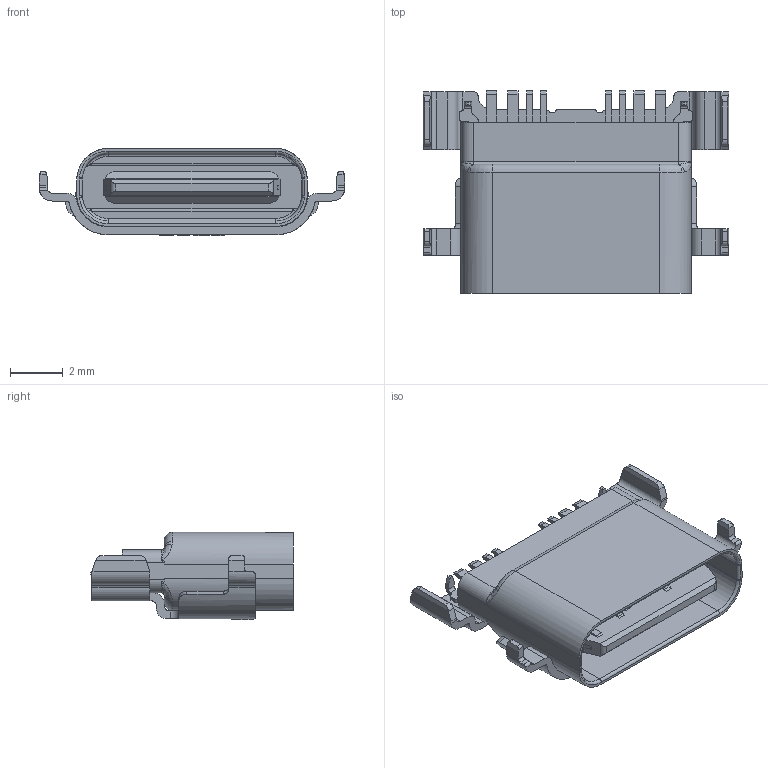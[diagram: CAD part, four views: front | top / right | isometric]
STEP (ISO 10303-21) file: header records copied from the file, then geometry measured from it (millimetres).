
FILE_DESCRIPTION (( 'STEP AP203' ), '1' );
FILE_NAME ('U5169-08N1.5C7.65LF.STEP', '2026-09-01T02:22:09', ( '' ), ( '' ), 'SwSTEP 2.0', 'SolidWorks 2024', '' );
FILE_SCHEMA (( 'CONFIG_CONTROL_DESIGN' ));
Length unit declared in the file: millimetre
Products named in the file (5): MSBR-2_1_1_1; MSBR-2_1_2_1; U5169-08N1.5C7.65LF; MSBR-1_1_1; MSBR-2_1_ASM_1
Assembly tree (4 placements, depth 3):
  U5169-08N1.5C7.65LF
    MSBR-2_1_ASM_1
      MSBR-2_1_1_1
      MSBR-2_1_2_1
    MSBR-1_1_1
Bounding box: 11.6 x 7.7 x 3.31 mm (x, y, z)
Volume: 93.9 mm3; surface area: 481.8 mm2
Topology: 5 solids, 5 shells, 543 faces, 1479 edges, 972 vertices
Faces by surface type: plane 298, cylinder 142, torus 56, bspline 47
Entity records: 21374 total; most frequent: CARTESIAN_POINT 7688, ORIENTED_EDGE 2958, DIRECTION 2482, EDGE_CURVE 1479, VERTEX_POINT 972, VECTOR 876, LINE 876, AXIS2_PLACEMENT_3D 803
